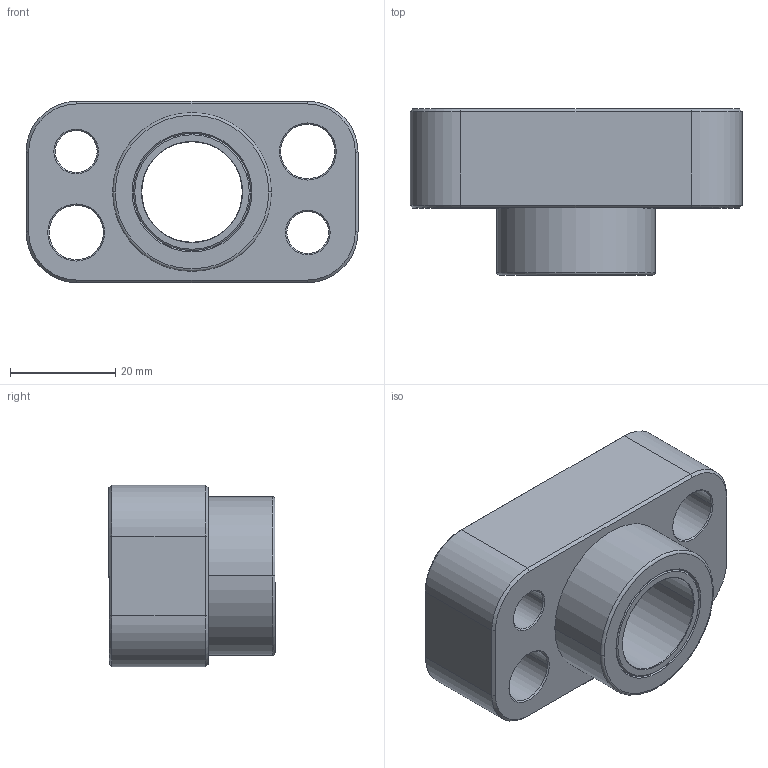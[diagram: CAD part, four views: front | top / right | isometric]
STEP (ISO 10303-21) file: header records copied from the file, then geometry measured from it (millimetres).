
FILE_DESCRIPTION (( 'STEP AP214' ), '1' );
FILE_NAME ('GK75-1-A-E-Base.STEP', '2010-11-16T14:06:21', ( ' ' ), ( '' ), 'SwSTEP 2.0', 'SolidWorks 2010', '' );
FILE_SCHEMA (( 'AUTOMOTIVE_DESIGN' ));
Length unit declared in the file: inch
Products named in the file (3): Base-GK75-1-A_Base-GK75-1-A-E-Cust; GK75-1-A-E-Base; Bushing-BU-.75ID-1.235Long
Assembly tree (2 placements, depth 2):
  GK75-1-A-E-Base
    Base-GK75-1-A_Base-GK75-1-A-E-Cust
    Bushing-BU-.75ID-1.235Long
Bounding box: 62.99 x 31.5 x 34.42 mm (x, y, z)
Volume: 31657.1 mm3; surface area: 16234.8 mm2
Topology: 2 solids, 2 shells, 81 faces, 176 edges, 102 vertices
Faces by surface type: cone 36, cylinder 24, plane 19, torus 2
Entity records: 2390 total; most frequent: DIRECTION 436, CARTESIAN_POINT 364, ORIENTED_EDGE 352, EDGE_CURVE 176, AXIS2_PLACEMENT_3D 174, VERTEX_POINT 102, EDGE_LOOP 96, CIRCLE 88
